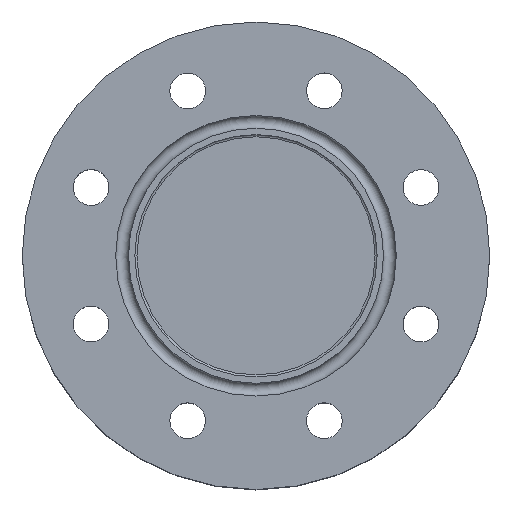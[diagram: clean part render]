
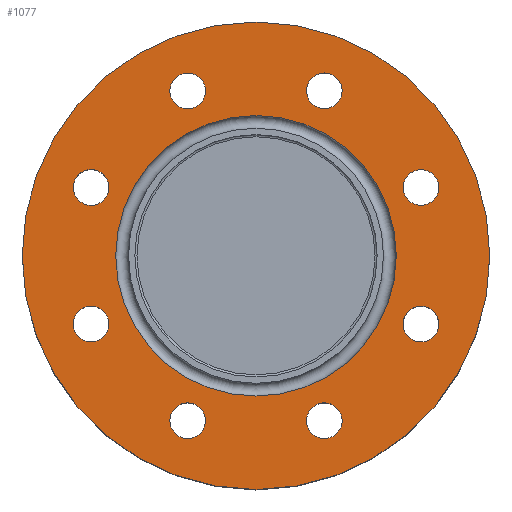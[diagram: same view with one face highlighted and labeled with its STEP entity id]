
A CAD part, top view. The second image highlights one B-rep face of the part: STEP entity #1077.
In plain terms, the highlighted planar face has unit normal (0, 0, 1).
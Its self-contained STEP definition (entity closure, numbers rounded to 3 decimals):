
#42=FACE_BOUND('',#299,.T.);
#43=FACE_BOUND('',#300,.T.);
#44=FACE_BOUND('',#301,.T.);
#45=FACE_BOUND('',#302,.T.);
#46=FACE_BOUND('',#303,.T.);
#47=FACE_BOUND('',#304,.T.);
#48=FACE_BOUND('',#305,.T.);
#49=FACE_BOUND('',#306,.T.);
#50=FACE_BOUND('',#307,.T.);
#223=FACE_OUTER_BOUND('',#298,.T.);
#298=EDGE_LOOP('',(#922));
#299=EDGE_LOOP('',(#923));
#300=EDGE_LOOP('',(#924));
#301=EDGE_LOOP('',(#925));
#302=EDGE_LOOP('',(#926));
#303=EDGE_LOOP('',(#927));
#304=EDGE_LOOP('',(#928));
#305=EDGE_LOOP('',(#929));
#306=EDGE_LOOP('',(#930));
#307=EDGE_LOOP('',(#931));
#423=CIRCLE('',#1209,33.);
#448=CIRCLE('',#1251,55.);
#449=CIRCLE('',#1252,4.2);
#450=CIRCLE('',#1253,4.2);
#451=CIRCLE('',#1254,4.2);
#452=CIRCLE('',#1255,4.2);
#453=CIRCLE('',#1256,4.2);
#454=CIRCLE('',#1257,4.2);
#455=CIRCLE('',#1258,4.2);
#456=CIRCLE('',#1259,4.2);
#526=VERTEX_POINT('',#1836);
#548=VERTEX_POINT('',#1913);
#549=VERTEX_POINT('',#1915);
#550=VERTEX_POINT('',#1917);
#551=VERTEX_POINT('',#1919);
#552=VERTEX_POINT('',#1921);
#553=VERTEX_POINT('',#1923);
#554=VERTEX_POINT('',#1925);
#555=VERTEX_POINT('',#1927);
#556=VERTEX_POINT('',#1929);
#647=EDGE_CURVE('',#526,#526,#423,.T.);
#684=EDGE_CURVE('',#548,#548,#448,.T.);
#685=EDGE_CURVE('',#549,#549,#449,.T.);
#686=EDGE_CURVE('',#550,#550,#450,.T.);
#687=EDGE_CURVE('',#551,#551,#451,.T.);
#688=EDGE_CURVE('',#552,#552,#452,.T.);
#689=EDGE_CURVE('',#553,#553,#453,.T.);
#690=EDGE_CURVE('',#554,#554,#454,.T.);
#691=EDGE_CURVE('',#555,#555,#455,.T.);
#692=EDGE_CURVE('',#556,#556,#456,.T.);
#922=ORIENTED_EDGE('',*,*,#684,.F.);
#923=ORIENTED_EDGE('',*,*,#685,.T.);
#924=ORIENTED_EDGE('',*,*,#686,.T.);
#925=ORIENTED_EDGE('',*,*,#687,.T.);
#926=ORIENTED_EDGE('',*,*,#688,.T.);
#927=ORIENTED_EDGE('',*,*,#689,.T.);
#928=ORIENTED_EDGE('',*,*,#690,.T.);
#929=ORIENTED_EDGE('',*,*,#691,.T.);
#930=ORIENTED_EDGE('',*,*,#647,.T.);
#931=ORIENTED_EDGE('',*,*,#692,.T.);
#1040=PLANE('',#1250);
#1077=ADVANCED_FACE('',(#223,#42,#43,#44,#45,#46,#47,#48,#49,#50),#1040,
 .T.);
#1209=AXIS2_PLACEMENT_3D('',#1838,#1479,#1480);
#1250=AXIS2_PLACEMENT_3D('',#1912,#1573,#1574);
#1251=AXIS2_PLACEMENT_3D('',#1914,#1575,#1576);
#1252=AXIS2_PLACEMENT_3D('',#1916,#1577,#1578);
#1253=AXIS2_PLACEMENT_3D('',#1918,#1579,#1580);
#1254=AXIS2_PLACEMENT_3D('',#1920,#1581,#1582);
#1255=AXIS2_PLACEMENT_3D('',#1922,#1583,#1584);
#1256=AXIS2_PLACEMENT_3D('',#1924,#1585,#1586);
#1257=AXIS2_PLACEMENT_3D('',#1926,#1587,#1588);
#1258=AXIS2_PLACEMENT_3D('',#1928,#1589,#1590);
#1259=AXIS2_PLACEMENT_3D('',#1930,#1591,#1592);
#1479=DIRECTION('center_axis',(0.,0.,-1.));
#1480=DIRECTION('ref_axis',(1.,0.,0.));
#1573=DIRECTION('center_axis',(0.,0.,1.));
#1574=DIRECTION('ref_axis',(1.,0.,0.));
#1575=DIRECTION('center_axis',(0.,0.,-1.));
#1576=DIRECTION('ref_axis',(1.,0.,0.));
#1577=DIRECTION('center_axis',(0.,0.,-1.));
#1578=DIRECTION('ref_axis',(0.707,0.707,0.));
#1579=DIRECTION('center_axis',(0.,0.,-1.));
#1580=DIRECTION('ref_axis',(0.,1.,0.));
#1581=DIRECTION('center_axis',(0.,0.,-1.));
#1582=DIRECTION('ref_axis',(-0.707,0.707,0.));
#1583=DIRECTION('center_axis',(0.,0.,-1.));
#1584=DIRECTION('ref_axis',(-0.707,-0.707,0.));
#1585=DIRECTION('center_axis',(0.,0.,-1.));
#1586=DIRECTION('ref_axis',(0.,-1.,0.));
#1587=DIRECTION('center_axis',(0.,0.,-1.));
#1588=DIRECTION('ref_axis',(0.707,-0.707,0.));
#1589=DIRECTION('center_axis',(0.,0.,-1.));
#1590=DIRECTION('ref_axis',(1.,0.,0.));
#1591=DIRECTION('center_axis',(0.,0.,-1.));
#1592=DIRECTION('ref_axis',(-1.,0.,0.));
#1836=CARTESIAN_POINT('',(0.,-33.,0.));
#1838=CARTESIAN_POINT('Origin',(0.,0.,0.));
#1912=CARTESIAN_POINT('Origin',(0.,55.,0.));
#1913=CARTESIAN_POINT('',(0.,-55.,0.));
#1914=CARTESIAN_POINT('Origin',(0.,0.,0.));
#1915=CARTESIAN_POINT('',(35.833,13.103,0.));
#1916=CARTESIAN_POINT('Origin',(38.803,16.073,0.));
#1917=CARTESIAN_POINT('',(16.073,34.603,0.));
#1918=CARTESIAN_POINT('Origin',(16.073,38.803,0.));
#1919=CARTESIAN_POINT('',(-13.103,35.833,0.));
#1920=CARTESIAN_POINT('Origin',(-16.073,38.803,0.));
#1921=CARTESIAN_POINT('',(-35.833,-13.103,0.));
#1922=CARTESIAN_POINT('Origin',(-38.803,-16.073,0.));
#1923=CARTESIAN_POINT('',(-16.073,-34.603,0.));
#1924=CARTESIAN_POINT('Origin',(-16.073,-38.803,0.));
#1925=CARTESIAN_POINT('',(13.103,-35.833,0.));
#1926=CARTESIAN_POINT('Origin',(16.073,-38.803,0.));
#1927=CARTESIAN_POINT('',(34.603,-16.073,0.));
#1928=CARTESIAN_POINT('Origin',(38.803,-16.073,0.));
#1929=CARTESIAN_POINT('',(-34.603,16.073,0.));
#1930=CARTESIAN_POINT('Origin',(-38.803,16.073,0.));
